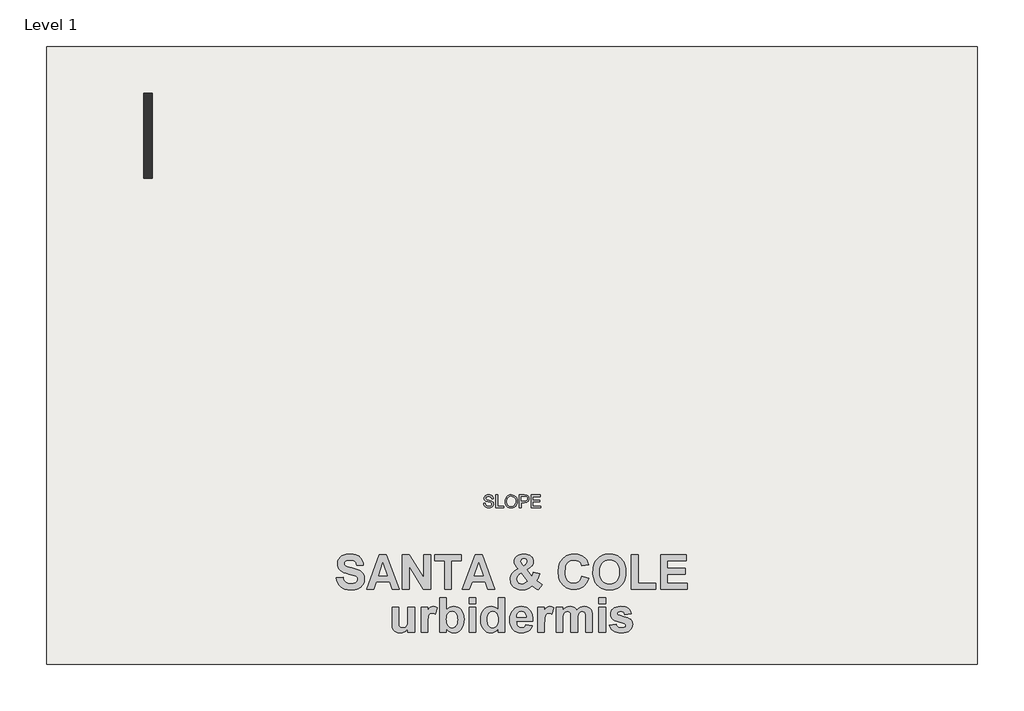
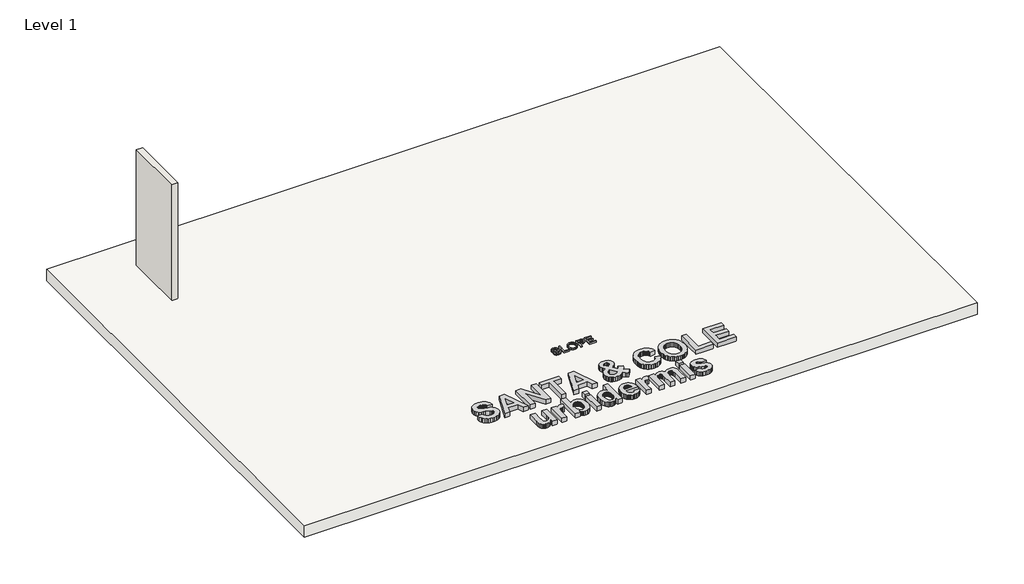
# One storey, incomplete: 2 proxies, 1 slab, 1 wall.
"""IFC4 building model written with IfcOpenShell, lengths in millimetres."""

from ifc_helpers import new_model, si_unit, frame, origin, origin_with_axes, place, context, project, spatial, polyline, outline, extrude, element, save

model = new_model("IFC4")

# Units and contexts
model_context = context("Model", 3, world=origin())
ifc_project = project(units=[si_unit("LENGTHUNIT", "METRE", prefix="MILLI")], contexts=[model_context])

# Site, building, storey
site = spatial("IfcSite", under=ifc_project)
building = spatial("IfcBuilding", under=site)
storey = spatial("IfcBuildingStorey", under=building, Name="Level 1", Elevation=0.0)

# Proxies
placement = place(None, origin())
element("IfcBuildingElementProxy", 1, Name="300mm Arial", ObjectType="300mm Arial", at=placement, inside=storey, context=model_context, shape_type="SweptSolid", body=[
    extrude(outline(polyline([(16648.3126287, -8880.6226105), (16685.983745, -8880.6226105), (16690.3063584, -8901.5275049), (16698.1238508, -8918.330515), (16710.3191389, -8931.6662373), (16727.7751396, -8942.1692683), (16749.1122953, -8948.9842823), (16772.9510486, -8951.2559536), (16793.9387164, -8949.5361052), (16812.3144221, -8944.3765603), (16827.2044459, -8936.20958), (16837.735068, -8925.4674257), (16843.9982589, -8913.1341818), (16846.0859893, -8900.1939326), (16844.5224908, -8887.5847773), (16839.8319953, -8876.6862732), (16830.3038517, -8867.3880557), (16814.2274085, -8859.5797604), (16759.376203, -8845.1955744), (16723.3697527, -8835.6766277), (16700.3311428, -8826.6175336), (16681.5783581, -8813.9439989), (16668.288621, -8798.5849256), (16660.3699611, -8780.8714075), (16657.7304077, -8761.1345385), (16660.9953604, -8739.0708158), (16670.7902186, -8718.4970152), (16686.8574647, -8701.0594087), (16708.9395815, -8688.404268), (16735.4454792, -8680.7063373), (16764.7840683, -8678.1403604), (16796.5690727, -8680.8258989), (16824.3809516, -8688.8825146), (16847.2264235, -8702.1446605), (16864.112207, -8720.4467898), (16874.799179, -8742.6484682), (16879.048216, -8767.6092616), (16841.3770997, -8767.6092616), (16834.4609182, -8745.1316717), (16820.039944, -8728.9080757), (16797.5071718, -8719.0856264), (16766.2555963, -8715.8114767), (16734.2682568, -8719.0488382), (16712.3240958, -8728.7609229), (16699.632167, -8743.0531384), (16695.401524, -8760.0308925), (16698.3997623, -8774.507049), (16707.3944771, -8786.1505141), (16728.6580564, -8796.5615746), (16768.9043467, -8807.1933643), (16810.4382239, -8817.291725), (16835.5645642, -8826.1024988), (16857.0396757, -8839.7693149), (16872.0216699, -8856.6367044), (16880.8232467, -8876.5207263), (16883.7571056, -8899.2374395), (16880.3817883, -8922.4599904), (16870.2558363, -8944.3029839), (16853.7931171, -8963.1017538), (16831.4074977, -8977.1916342), (16804.4877327, -8985.993211), (16774.4225766, -8988.9270699), (16737.5148154, -8985.7632847), (16707.1369597, -8976.2719292), (16682.9395215, -8960.4162153), (16664.5730128, -8938.1593545), (16652.7823949, -8911.0464515), (16648.3126287, -8880.6226105)])), origin_with_axes(), (0.0, 0.0, 1.0), 50.0),
    extrude(outline(polyline([(16940.26378, -8984.2181803), (16940.26378, -8682.8492499), (16977.9348963, -8682.8492499), (16977.9348963, -8946.547064), (17128.6193616, -8946.547064), (17128.6193616, -8984.2181803), (16940.26378, -8984.2181803)])), origin_with_axes(), (0.0, 0.0, 1.0), 50.0),
    extrude(outline(polyline([(17156.8726988, -8837.5068407), (17159.3834934, -8802.1579795), (17166.9158773, -8770.8650172), (17179.4698503, -8743.627954), (17197.0454127, -8720.4467898), (17218.589502, -8701.9377269), (17243.0490562, -8688.7169677), (17270.4240751, -8680.7845122), (17300.7145589, -8678.1403604), (17340.2434793, -8683.1067673), (17375.6889095, -8698.0059881), (17405.1194691, -8721.7895591), (17426.6037777, -8753.4090166), (17439.7371649, -8791.3376503), (17444.1149606, -8834.0487499), (17439.5072386, -8877.3300666), (17425.6840727, -8915.7921292), (17403.4088179, -8947.466769), (17373.4448294, -8970.3858173), (17338.3029018, -8984.2917567), (17300.4938297, -8988.9270699), (17260.357904, -8983.8043131), (17224.7101387, -8968.4360427), (17195.3531555, -8944.2110134), (17174.0895762, -8912.5179795), (17161.1769181, -8876.0516767), (17156.8726988, -8837.5068407)]), holes=[polyline([(17194.5438151, -8837.8747227), (17196.4269111, -8862.8493116), (17202.0761989, -8885.0188003), (17211.4916788, -8904.3831889), (17224.6733505, -8920.9424772), (17240.6969107, -8934.2046231), (17258.6380557, -8943.6775845), (17278.4967857, -8949.3613613), (17300.2731005, -8951.2559536), (17322.4218959, -8949.3429672), (17342.5151506, -8943.6040081), (17360.5528647, -8934.0390762), (17376.5350381, -8920.6481716), (17389.6201408, -8903.7393954), (17398.9666428, -8883.6208488), (17404.5745439, -8860.2925317), (17406.4438443, -8833.7544443), (17403.243271, -8800.4059415), (17393.6415509, -8771.5823871), (17377.8870044, -8748.0103483), (17356.227952, -8730.4163919), (17330.0991333, -8719.4627055), (17300.9352881, -8715.8114767), (17279.9154306, -8717.5704125), (17260.4130863, -8722.8472198), (17242.4282553, -8731.6418988), (17225.9609375, -8743.9544493), (17212.2159464, -8760.3780811), (17202.3980957, -8781.5060039), (17196.5073852, -8807.3382178), (17194.5438151, -8837.8747227)])]), origin_with_axes(), (0.0, 0.0, 1.0), 50.0),
    extrude(outline(polyline([(17495.9127455, -8984.2181803), (17495.9127455, -8682.8492499), (17607.6017193, -8682.8492499), (17652.6304755, -8685.7187295), (17672.7076354, -8691.0806095), (17689.234734, -8699.8086099), (17702.5428652, -8712.2982036), (17712.9631227, -8728.9448639), (17719.6953632, -8748.5805654), (17721.9394434, -8770.0372828), (17720.4242294, -8788.5371486), (17715.8785875, -8805.5562894), (17708.3025177, -8821.0947052), (17697.6960199, -8835.1523959), (17683.1347907, -8846.8050581), (17663.6945265, -8855.1283882), (17639.3752274, -8860.1223863), (17610.1768932, -8861.7870523), (17533.5838619, -8861.7870523), (17533.5838619, -8984.2181803), (17495.9127455, -8984.2181803)]), holes=[polyline([(17533.5838619, -8824.115936), (17612.3841852, -8824.115936), (17645.7878704, -8820.6578453), (17667.8607901, -8810.283573), (17680.1664428, -8793.6369127), (17684.2683271, -8771.3616579), (17681.849503, -8754.4390862), (17674.5930306, -8740.1652647), (17663.4002209, -8729.4231105), (17649.1723847, -8723.0955402), (17611.5012684, -8720.5203662), (17533.5838619, -8720.5203662), (17533.5838619, -8824.115936)])]), origin_with_axes(), (0.0, 0.0, 1.0), 50.0),
    extrude(outline(polyline([(17773.7372283, -8984.2181803), (17773.7372283, -8682.8492499), (17990.3461471, -8682.8492499), (17990.3461471, -8720.5203662), (17811.4083446, -8720.5203662), (17811.4083446, -8809.9892674), (17980.928368, -8809.9892674), (17980.928368, -8847.6603837), (17811.4083446, -8847.6603837), (17811.4083446, -8946.547064), (17995.0550366, -8946.547064), (17995.0550366, -8984.2181803), (17773.7372283, -8984.2181803)])), origin_with_axes(), (0.0, 0.0, 1.0), 50.0),
])
element("IfcBuildingElementProxy", 2, Name="800mm Arial", ObjectType="800mm Arial", at=placement, inside=storey, context=model_context, shape_type="SweptSolid", body=[
    extrude(outline(polyline([(13169.8954163, -10638.9709188), (13325.9951045, -10625.9626115), (13335.4464528, -10663.539343), (13348.7596424, -10695.7806361), (13365.9346732, -10722.6864905), (13386.9715452, -10744.2569064), (13411.9337756, -10760.7967659), (13440.8848815, -10772.6109513), (13473.8248629, -10779.6994626), (13510.7537198, -10782.0622996), (13549.5626836, -10779.9725862), (13583.2648706, -10773.7034459), (13611.8602806, -10763.2548787), (13635.3489137, -10748.6268847), (13653.6672527, -10731.2041371), (13666.7517806, -10712.3713093), (13674.6024974, -10692.1284013), (13677.2194029, -10670.4754132), (13672.8748315, -10643.9252546), (13659.8411173, -10621.5926332), (13635.9332712, -10602.7153434), (13598.966304, -10586.5311798), (13463.5986057, -10551.7746086), (13400.7674649, -10534.815536), (13348.0482506, -10515.8493223), (13305.4409626, -10494.8759674), (13272.9456011, -10471.8954713), (13239.2434142, -10436.3131774), (13215.1704235, -10397.0468903), (13200.7266291, -10354.0966099), (13195.912031, -10307.4623362), (13198.122427, -10276.770861), (13204.7536149, -10247.0956599), (13215.8055948, -10218.4367328), (13231.2783666, -10190.7940797), (13250.9178619, -10165.2728985), (13274.4700121, -10142.9783874), (13301.9348173, -10123.9105463), (13333.3122774, -10108.0693751), (13368.3610274, -10095.6200185), (13406.8397021, -10086.7276209), (13448.7483017, -10081.3921823), (13494.086826, -10079.6137028), (13566.261336, -10084.0471981), (13628.9209805, -10097.3476843), (13682.0657596, -10119.5151612), (13705.0700746, -10133.9240211), (13725.6956733, -10150.5496288), (13759.9504592, -10188.9774899), (13784.969855, -10233.325147), (13800.7538608, -10283.5926003), (13807.3024764, -10339.7798498), (13651.2027882, -10339.7798498), (13644.1460356, -10310.7715784), (13633.9515369, -10286.1459888), (13620.6192922, -10265.9030808), (13604.1493015, -10250.0428545), (13583.8555798, -10238.0825798), (13559.0521422, -10229.5395263), (13529.7389887, -10224.4136943), (13495.9161193, -10222.7050836), (13460.6514111, -10224.5216734), (13429.4517989, -10229.9714428), (13402.3172828, -10239.0543918), (13379.2478627, -10251.7705204), (13367.3320499, -10261.9078536), (13358.8207551, -10273.6204116), (13353.7139782, -10286.9081943), (13352.0117192, -10301.7712017), (13353.5615371, -10315.5798249), (13358.2109907, -10328.3467671), (13376.8088051, -10350.7556091), (13398.1823179, -10363.7702682), (13430.798362, -10377.0008854), (13529.7580438, -10404.1099947), (13635.3743205, -10432.3115985), (13676.311108, -10446.907834), (13709.3336617, -10461.8343586), (13736.8238737, -10478.3170527), (13761.1636363, -10497.5817969), (13782.3529494, -10519.6285913), (13800.3918132, -10544.4574357), (13814.7974973, -10572.2144197), (13825.0872716, -10603.0456325), (13831.2611363, -10636.9510742), (13833.3190911, -10673.9307448), (13830.8863852, -10708.3316201), (13823.5882675, -10741.614594), (13811.4247379, -10773.7796664), (13794.3957965, -10804.8268375), (13772.9143046, -10833.3587304), (13747.3931234, -10857.9779683), (13717.8322531, -10878.6845513), (13684.2316936, -10895.4784793), (13646.4199487, -10908.4613798), (13604.2255221, -10917.7348802), (13557.6484138, -10923.2989804), (13506.6886238, -10925.1536805), (13433.7455566, -10920.5867991), (13369.7965144, -10906.8861551), (13314.8414972, -10884.0517484), (13268.880505, -10852.083579), (13231.5959522, -10811.3627497), (13202.6702532, -10762.2703633), (13182.1034079, -10704.8064196), (13169.8954163, -10638.9709188)])), origin_with_axes(), (0.0, 0.0, 1.0), 150.0),
    extrude(outline(polyline([(14652.8424541, -10912.1453731), (14488.8158287, -10912.1453731), (14424.5873111, -10730.0290702), (14115.0302472, -10730.0290702), (14051.6147488, -10912.1453731), (13885.3523205, -10912.1453731), (14184.5433896, -10092.6220101), (14350.8058179, -10092.6220101), (14652.8424541, -10912.1453731)]), holes=[polyline([(14374.5866298, -10586.9376894), (14269.0973873, -10287.7466204), (14165.0309285, -10586.9376894), (14374.5866298, -10586.9376894)])]), origin_with_axes(), (0.0, 0.0, 1.0), 150.0),
    extrude(outline(polyline([(14730.8922982, -10912.1453731), (14730.8922982, -10092.6220101), (14894.5124141, -10092.6220101), (15238.2162849, -10644.2555437), (15238.2162849, -10092.6220101), (15394.3159731, -10092.6220101), (15394.3159731, -10912.1453731), (15225.6144871, -10912.1453731), (14886.9919864, -10368.6420317), (14886.9919864, -10912.1453731), (14730.8922982, -10912.1453731)])), origin_with_axes(), (0.0, 0.0, 1.0), 150.0),
    extrude(outline(polyline([(15732.5319642, -10912.1453731), (15732.5319642, -10235.713391), (15498.3824319, -10235.713391), (15498.3824319, -10092.6220101), (16122.7811846, -10092.6220101), (16122.7811846, -10235.713391), (15888.6316523, -10235.713391), (15888.6316523, -10912.1453731), (15732.5319642, -10912.1453731)])), origin_with_axes(), (0.0, 0.0, 1.0), 150.0),
    extrude(outline(polyline([(16916.287933, -10912.1453731), (16752.2613075, -10912.1453731), (16688.0327899, -10730.0290702), (16378.475726, -10730.0290702), (16315.0602276, -10912.1453731), (16148.7977993, -10912.1453731), (16447.9888684, -10092.6220101), (16614.2512967, -10092.6220101), (16916.287933, -10912.1453731)]), holes=[polyline([(16638.0321086, -10586.9376894), (16532.5428661, -10287.7466204), (16428.4764073, -10586.9376894), (16638.0321086, -10586.9376894)])]), origin_with_axes(), (0.0, 0.0, 1.0), 150.0),
    extrude(outline(polyline([(18035.002365, -10798.7291934), (17936.2205311, -10925.1536805), (17899.5076324, -10906.0350256), (17863.5569392, -10883.6388871), (17793.9421694, -10829.014159), (17744.0939292, -10871.9009223), (17718.064611, -10888.4661887), (17691.2984943, -10901.7793782), (17662.8809322, -10912.0056355), (17631.8972783, -10919.3101049), (17562.2316948, -10925.1536805), (17492.4644839, -10919.6912077), (17461.0489135, -10912.8631167), (17431.9453665, -10903.3037892), (17405.1538428, -10891.0132254), (17380.6743426, -10875.9914252), (17358.5068657, -10858.2383885), (17338.6514122, -10837.7541155), (17313.2191551, -10802.6418484), (17295.0532571, -10764.9888962), (17284.1537183, -10724.7952591), (17280.5205387, -10682.0609369), (17283.3597543, -10643.0296631), (17291.8774008, -10606.018234), (17306.0734784, -10571.0266494), (17325.9479871, -10538.0549094), (17351.4755199, -10507.1411243), (17382.6306701, -10478.3234044), (17419.4134376, -10451.6017496), (17461.8238224, -10426.97616), (17422.4686113, -10379.7702321), (17394.2416006, -10334.9017345), (17377.2444178, -10292.3706671), (17371.5786902, -10252.17703), (17375.3007938, -10217.4712725), (17386.4671045, -10185.5094548), (17405.0776223, -10156.291577), (17431.1323473, -10129.817639), (17464.0723287, -10107.8534169), (17503.3386158, -10092.1646868), (17548.9312086, -10082.7514488), (17600.8501072, -10079.6137028), (17651.0985054, -10082.8721313), (17695.5414383, -10092.647417), (17734.1789058, -10108.9395597), (17767.0109081, -10131.7485596), (17793.1990191, -10159.2578267), (17811.9048126, -10189.6507714), (17823.1282887, -10222.9273936), (17826.8694474, -10259.0876932), (17824.9448785, -10282.760526), (17819.1711718, -10305.8108909), (17809.5483272, -10328.238788), (17796.0763449, -10350.0442173), (17776.7480835, -10372.2434527), (17749.556402, -10395.8527684), (17671.5827784, -10447.3016402), (17787.0315062, -10599.3362323), (17808.3732604, -10558.5328308), (17826.4629378, -10506.8552973), (17974.0259243, -10539.3760657), (17953.3447482, -10603.7570243), (17935.6107667, -10648.1173849), (17918.7406181, -10679.672693), (17900.6509407, -10705.638494), (17971.2819845, -10759.7042714), (18035.002365, -10798.7291934)]), holes=[polyline([(17537.0280993, -10527.7905419), (17492.9726209, -10557.3387088), (17475.7086661, -10574.151692), (17461.6205676, -10592.3239417), (17442.8703121, -10630.459624), (17436.6202269, -10669.4591392), (17438.519389, -10693.2081925), (17444.2168752, -10714.6579258), (17453.7126855, -10733.8083392), (17467.0068199, -10750.6594327), (17483.489514, -10764.398187), (17502.5510034, -10774.2115829), (17524.1912882, -10780.0996205), (17548.4103682, -10782.0622996), (17581.3376462, -10778.4799338), (17613.0453954, -10767.7328361), (17645.5661637, -10748.7539189), (17680.9324993, -10720.4760945), (17537.0280993, -10527.7905419)]), polyline([(17592.7199151, -10358.2760368), (17629.7122891, -10326.3650328), (17647.6749323, -10308.5040171), (17660.5053917, -10290.693815), (17668.2036673, -10272.9344266), (17670.7697592, -10255.225852), (17665.8154234, -10227.73564), (17650.952416, -10204.6154062), (17627.705148, -10188.9139727), (17597.5980304, -10183.6801616), (17568.4055594, -10188.3042083), (17546.2761928, -10202.1763486), (17532.327832, -10222.0953192), (17527.6783784, -10244.8598571), (17529.6347058, -10259.9388227), (17535.5036883, -10276.5167925), (17558.9796179, -10314.1697447), (17592.7199151, -10358.2760368)])]), origin_with_axes(), (0.0, 0.0, 1.0), 150.0),
    extrude(outline(polyline([(18971.6004942, -10599.9459968), (19127.7001824, -10651.9792261), (19106.1424699, -10713.6988172), (19078.4617065, -10766.9452237), (19044.6578922, -10811.7184456), (19004.7310269, -10848.018483), (18958.8462553, -10876.0739974), (18907.1687218, -10896.1136506), (18849.6984265, -10908.1374425), (18786.4353692, -10912.1453731), (18746.441811, -10910.4335866), (18708.2711943, -10905.298227), (18671.9235191, -10896.7392943), (18637.3987854, -10884.7567885), (18604.6969932, -10869.3507097), (18573.8181426, -10850.5210578), (18544.7622334, -10828.2678328), (18517.5292657, -10802.5910347), (18492.8528624, -10773.944811), (18471.4666462, -10742.7833091), (18453.370617, -10709.106529), (18438.564775, -10672.9144708), (18427.0491201, -10634.2071344), (18418.8236524, -10592.9845198), (18413.8883717, -10549.246627), (18412.2432781, -10502.993456), (18413.902663, -10454.1424346), (18418.8808178, -10408.0988702), (18427.1777423, -10364.8627627), (18438.7934367, -10324.4341122), (18453.7279009, -10286.8129186), (18471.9811349, -10251.999182), (18493.5531387, -10219.9929023), (18518.4439124, -10190.7940797), (18546.0405156, -10164.7361788), (18575.7300081, -10142.1526648), (18607.5123898, -10123.0435375), (18641.3876609, -10107.408797), (18677.3558213, -10095.2484433), (18715.416871, -10086.5624763), (18755.5708099, -10081.3508962), (18797.8176382, -10079.6137028), (18869.8714656, -10085.3429475), (18903.23066, -10092.5045034), (18934.8113749, -10102.5306817), (18964.6136103, -10115.4214824), (18992.6373662, -10131.1769054), (19018.8826426, -10149.7969508), (19043.3494394, -10171.2816186), (19069.7344534, -10201.2744054), (19092.5879153, -10237.1869883), (19111.9098249, -10279.0193673), (19127.7001824, -10326.7715424), (18971.6004942, -10352.7881571), (18961.7616914, -10324.1990988), (18947.692648, -10298.7986002), (18929.3933641, -10276.5866614), (18906.8638396, -10257.5632822), (18880.8916869, -10242.3128203), (18852.2645183, -10231.4196333), (18820.9823339, -10224.883721), (18787.0451336, -10222.7050836), (18740.6585767, -10226.6622006), (18698.8579563, -10238.5335513), (18661.6432723, -10258.319136), (18629.0145248, -10286.0189545), (18602.470718, -10322.5730604), (18583.510856, -10368.921507), (18572.1349387, -10425.0642945), (18568.3429663, -10491.0014227), (18572.0206079, -10560.7940405), (18583.0535327, -10619.76334), (18601.4417406, -10667.9093213), (18627.1852316, -10705.2319844), (18658.8231119, -10733.1541128), (18694.8944876, -10753.0984903), (18735.3993587, -10765.0651168), (18780.3377252, -10769.0539923), (18813.7921953, -10766.5069556), (18844.8457181, -10758.8658453), (18873.4982935, -10746.1306616), (18899.7499215, -10728.3014044), (18923.0289481, -10704.996971), (18942.7637191, -10675.8362586), (18958.9542344, -10640.8192672), (18971.6004942, -10599.9459968)])), origin_with_axes(), (0.0, 0.0, 1.0), 150.0),
    extrude(outline(polyline([(19231.7666412, -10507.4650617), (19234.0659611, -10447.4794881), (19240.963921, -10392.524471), (19252.4605207, -10342.6000101), (19268.5557604, -10297.7061057), (19301.0003082, -10238.4827376), (19343.455155, -10185.6110822), (19393.1763611, -10142.3432161), (19419.7328713, -10125.530233), (19447.4199864, -10111.9312163), (19486.4703153, -10097.7923042), (19528.4170252, -10087.6930812), (19573.2601159, -10081.6335474), (19620.9995876, -10079.6137028), (19664.3500259, -10081.3651875), (19705.4773648, -10086.6196417), (19744.3816044, -10095.3770655), (19781.0627445, -10107.6374586), (19815.5207852, -10123.4008213), (19847.7557265, -10142.6671535), (19877.7675684, -10165.4364551), (19905.5563109, -10191.7087263), (19930.5661792, -10221.0996883), (19952.2413983, -10253.2250625), (19970.5819684, -10288.0848491), (19985.5878893, -10325.6790479), (19997.2591612, -10366.0076589), (20005.5957839, -10409.0706822), (20010.5977576, -10454.8681178), (20012.2650821, -10503.3999656), (20010.610461, -10551.5935848), (20005.6465976, -10597.0877261), (19997.373492, -10639.8823896), (19985.7911441, -10679.9775752), (19970.899554, -10717.3732829), (19952.6987216, -10752.0695129), (19931.188647, -10784.066265), (19906.3693301, -10813.3635392), (19878.7774907, -10839.5643536), (19848.9498484, -10862.271726), (19816.8864034, -10881.4856565), (19782.5871555, -10897.2061452), (19746.0521048, -10909.4331919), (19707.2812512, -10918.1667967), (19666.2745948, -10923.4069595), (19623.0321357, -10925.1536805), (19579.313298, -10923.4148992), (19537.8937803, -10918.1985552), (19498.7735826, -10909.5046486), (19461.9527048, -10897.3331794), (19427.431147, -10881.6841476), (19395.2089091, -10862.5575531), (19365.2859912, -10839.953396), (19337.6623932, -10813.8716762), (19312.8430763, -10784.7411344), (19291.3330017, -10752.9905112), (19273.1321693, -10718.6198065), (19258.2405792, -10681.6290204), (19246.6582313, -10642.0181529), (19238.3851257, -10599.7872039), (19233.4212623, -10554.9361735), (19231.7666412, -10507.4650617)]), holes=[polyline([(19387.8663293, -10501.7739272), (19392.0139977, -10566.5995057), (19404.4570026, -10623.0662305), (19425.1953441, -10671.1741015), (19454.2290223, -10710.9231188), (19489.6525233, -10742.0465104), (19529.5603334, -10764.2775044), (19573.9524526, -10777.6161008), (19622.8288808, -10782.0622996), (19671.6544954, -10777.6478594), (19715.8941735, -10764.4045387), (19755.5479151, -10742.3323375), (19790.6157202, -10711.4312558), (19819.2937024, -10671.7012937), (19839.7779755, -10623.1424511), (19852.0685393, -10565.754728), (19856.1653939, -10499.5381244), (19852.1765184, -10434.2425191), (19840.2098919, -10377.7884978), (19820.2655145, -10330.1760604), (19792.343386, -10291.4052068), (19757.8154764, -10261.3489029), (19718.0537557, -10239.8801144), (19673.0582239, -10226.9988413), (19622.8288808, -10222.7050836), (19572.5487241, -10227.049655), (19527.4007512, -10240.0833692), (19487.3849619, -10261.8062262), (19452.5013565, -10292.218226), (19424.2235321, -10331.3828857), (19404.0250861, -10379.3637225), (19391.9060185, -10436.1607363), (19387.8663293, -10501.7739272)])]), origin_with_axes(), (0.0, 0.0, 1.0), 150.0),
    extrude(outline(polyline([(20142.3481556, -10912.1453731), (20142.3481556, -10092.6220101), (20298.4478438, -10092.6220101), (20298.4478438, -10769.0539923), (20714.713679, -10769.0539923), (20714.713679, -10912.1453731), (20142.3481556, -10912.1453731)])), origin_with_axes(), (0.0, 0.0, 1.0), 150.0),
    extrude(outline(polyline([(20831.7884451, -10912.1453731), (20831.7884451, -10092.6220101), (21443.1788906, -10092.6220101), (21443.1788906, -10235.713391), (20987.8881333, -10235.713391), (20987.8881333, -10417.8296939), (21417.1622759, -10417.8296939), (21417.1622759, -10560.9210747), (20987.8881333, -10560.9210747), (20987.8881333, -10769.0539923), (21456.1871979, -10769.0539923), (21456.1871979, -10912.1453731), (20831.7884451, -10912.1453731)])), origin_with_axes(), (0.0, 0.0, 1.0), 150.0),
    extrude(outline(polyline([(14860.9753717, -11928.9504956), (14860.9753717, -11841.144421), (14844.2132023, -11863.3690633), (14825.0246786, -11883.0911309), (14803.4098007, -11900.3106236), (14779.3685686, -11915.0275417), (14753.7521118, -11926.8099685), (14727.4115598, -11935.2259877), (14700.3469125, -11940.2755991), (14672.55817, -11941.958803), (14644.7249655, -11940.3073577), (14618.3399515, -11935.3530219), (14593.4031279, -11927.0957956), (14569.9144948, -11915.5356787), (14548.7251817, -11900.9839052), (14530.6863179, -11883.751709), (14515.7979037, -11863.83909), (14504.0599388, -11841.2460484), (14495.1675412, -11815.0198272), (14488.8158287, -11784.2076695), (14483.7344586, -11708.8255447), (14483.7344586, -11330.5683576), (14639.8341468, -11330.5683576), (14639.8341468, -11607.1981435), (14641.9429154, -11709.6131571), (14648.2692211, -11762.7896947), (14660.2104407, -11788.3997998), (14679.1639511, -11808.1155156), (14704.6470219, -11820.6919065), (14736.1769231, -11824.8840368), (14773.5503999, -11819.2945298), (14806.8079669, -11802.5260086), (14833.0786501, -11777.4494473), (14849.4914754, -11746.9358201), (14854.5156801, -11724.3173717), (14858.1043977, -11689.6941864), (14860.9753717, -11584.4336057), (14860.9753717, -11330.5683576), (15017.0750599, -11330.5683576), (15017.0750599, -11928.9504956), (14860.9753717, -11928.9504956)])), origin_with_axes(), (0.0, 0.0, 1.0), 150.0),
    extrude(outline(polyline([(15329.2744363, -11928.9504956), (15173.1747481, -11928.9504956), (15173.1747481, -11330.5683576), (15329.2744363, -11330.5683576), (15329.2744363, -11413.9028265), (15362.252528, -11364.8930123), (15391.6736606, -11336.1578646), (15421.2472344, -11322.2095038), (15454.6826494, -11317.5600502), (15479.263777, -11319.6180051), (15503.4129882, -11325.7918697), (15527.130283, -11336.0816441), (15550.4156613, -11350.4873282), (15504.8865855, -11499.0665887), (15467.2844471, -11480.011451), (15432.5278759, -11473.6597384), (15402.5223857, -11478.1059372), (15377.5474519, -11491.4445336), (15357.4760401, -11516.3686537), (15342.1811163, -11555.5714237), (15336.5344438, -11585.0941838), (15332.5011063, -11627.320369), (15329.2744363, -11749.8830148), (15329.2744363, -11928.9504956)])), origin_with_axes(), (0.0, 0.0, 1.0), 150.0),
    extrude(outline(polyline([(15615.457198, -11928.9504956), (15615.457198, -11109.4271326), (15771.5568862, -11109.4271326), (15771.5568862, -11399.4717355), (15808.9811767, -11363.6353732), (15849.7083577, -11338.0379715), (15893.7384293, -11322.6795305), (15941.0713913, -11317.5600502), (15992.215381, -11322.5016826), (16038.7353239, -11337.3265797), (16080.63122, -11362.0347416), (16117.9030694, -11396.6261683), (16148.4929171, -11440.4656885), (16170.3428084, -11492.9181309), (16183.4527431, -11553.9834956), (16187.8227214, -11623.6617825), (16183.47815, -11695.7029065), (16170.4444358, -11758.9786672), (16148.7215788, -11813.4890645), (16118.309579, -11859.2340984), (16081.6983077, -11895.4261567), (16041.3776363, -11921.2776268), (15997.3475647, -11936.7885089), (15949.608093, -11941.958803), (15901.1572295, -11935.7087178), (15853.3669441, -11916.9584623), (15830.4563169, -11902.9465844), (15809.1844315, -11885.9112912), (15789.5512879, -11865.8525829), (15771.5568862, -11842.7704594), (15771.5568862, -11928.9504956), (15615.457198, -11928.9504956)]), holes=[polyline([(15771.5568862, -11618.3771577), (15773.3607726, -11663.118621), (15778.7724317, -11701.6099992), (15787.7918635, -11733.8512922), (15800.4190681, -11759.8425001), (15822.2181457, -11788.2981724), (15847.3709275, -11808.6236526), (15875.8774135, -11820.8189408), (15907.7376038, -11824.8840368), (15932.5029311, -11822.0003593), (15955.3754481, -11813.3493268), (15976.3551547, -11798.9309393), (15995.442051, -11778.7451967), (16011.3149807, -11752.3728861), (16022.6527876, -11719.3947944), (16029.4554718, -11679.8109217), (16031.7230332, -11633.6212678), (16029.4427684, -11584.4653642), (16022.6019739, -11542.6901506), (16011.2006499, -11508.2956271), (15995.2387962, -11481.2817935), (15975.70728, -11460.873741), (15953.5969685, -11446.2965606), (15928.9078618, -11437.5502524), (15901.6399597, -11434.6348163), (15874.8674912, -11437.4803836), (15850.4451564, -11446.0170853), (15828.3729552, -11460.2449214), (15808.6508876, -11480.1638921), (15792.422262, -11505.8756246), (15780.8303866, -11537.4817463), (15773.8752613, -11574.9822574), (15771.5568862, -11618.3771577)])]), origin_with_axes(), (0.0, 0.0, 1.0), 150.0),
    extrude(outline(polyline([(16304.8974875, -11252.5185135), (16304.8974875, -11109.4271326), (16460.9971757, -11109.4271326), (16460.9971757, -11252.5185135), (16304.8974875, -11252.5185135)])), origin_with_axes(), (0.0, 0.0, 1.0), 150.0),
    extrude(outline(polyline([(16304.8974875, -11928.9504956), (16304.8974875, -11330.5683576), (16460.9971757, -11330.5683576), (16460.9971757, -11928.9504956), (16304.8974875, -11928.9504956)])), origin_with_axes(), (0.0, 0.0, 1.0), 150.0),
    extrude(outline(polyline([(17150.4374652, -11928.9504956), (16994.337777, -11928.9504956), (16994.337777, -11842.7704594), (16976.0766034, -11866.2654442), (16956.2529085, -11886.5464625), (16934.8666922, -11903.6135142), (16911.9179547, -11917.4665993), (16864.2801104, -11935.8357521), (16816.2865702, -11941.958803), (16768.9599598, -11936.7758055), (16725.1521982, -11921.2268131), (16684.8632854, -11895.3118258), (16648.0932213, -11859.0308436), (16617.4589115, -11813.4636576), (16595.5772617, -11759.690059), (16582.4482718, -11697.7100477), (16578.0719419, -11627.5236238), (16582.4419201, -11556.1557813), (16595.5518549, -11493.8835912), (16617.4017461, -11440.7070536), (16647.9915939, -11396.6261683), (16685.2634432, -11362.0347416), (16727.1593394, -11337.3265797), (16773.6792823, -11322.5016826), (16824.8232719, -11317.5600502), (16872.156234, -11322.6795305), (16916.1863056, -11338.0379715), (16956.9134866, -11363.6353732), (16994.337777, -11399.4717355), (16994.337777, -11109.4271326), (17150.4374652, -11109.4271326), (17150.4374652, -11928.9504956)]), holes=[polyline([(16734.1716301, -11618.3771577), (16735.7976685, -11664.2619293), (16740.6757837, -11703.337665), (16748.8059758, -11735.6043649), (16760.1882448, -11761.0620289), (16780.8567175, -11788.9841574), (16805.2599972, -11808.9285349), (16833.3980839, -11820.8951613), (16865.2709776, -11824.8840368), (16891.1859649, -11821.8923802), (16915.0684041, -11812.9174103), (16936.9182954, -11797.9591272), (16956.7356386, -11777.0175309), (16973.1865742, -11750.1307316), (16984.9372424, -11717.3368395), (16991.9876434, -11678.6358548), (16994.337777, -11634.0277774), (16992.0575122, -11584.6940259), (16985.2167178, -11542.791778), (16973.8153937, -11508.3210339), (16957.85354, -11481.2817935), (16938.3220239, -11460.873741), (16916.2117124, -11446.2965606), (16891.5226056, -11437.5502524), (16864.2547036, -11434.6348163), (16837.7299518, -11437.5184939), (16813.441003, -11446.1695264), (16791.3878569, -11460.5879139), (16771.5705137, -11480.7736565), (16755.2085021, -11506.6759404), (16743.521351, -11538.2439518), (16736.5090603, -11575.4776909), (16734.1716301, -11618.3771577)])]), origin_with_axes(), (0.0, 0.0, 1.0), 150.0),
    extrude(outline(polyline([(17644.7531445, -11746.8341927), (17800.8528327, -11772.8508074), (17783.9826841, -11811.7423435), (17762.8441847, -11845.6922472), (17737.4373344, -11874.7005185), (17707.7621332, -11898.7671575), (17673.9583189, -11917.6635024), (17636.1656291, -11931.1608916), (17594.3840638, -11939.2593251), (17548.613623, -11941.958803), (17512.0372862, -11940.367699), (17477.9190621, -11935.594387), (17446.2589508, -11927.638867), (17417.0569522, -11916.501139), (17390.3130664, -11902.181203), (17366.0272934, -11884.679059), (17344.1996331, -11863.994707), (17324.8300856, -11840.128147), (17299.7535244, -11796.6951364), (17281.841695, -11747.9012804), (17271.0945973, -11693.7465791), (17267.5122314, -11634.2310322), (17272.2633124, -11564.0573117), (17286.5165554, -11501.9121559), (17310.2719604, -11447.7955648), (17343.5295275, -11401.7075384), (17384.0534537, -11364.8930123), (17429.6079363, -11338.5969222), (17480.1929752, -11322.8192682), (17535.8085705, -11317.5600502), (17597.6107338, -11322.9590059), (17652.5276407, -11339.155873), (17677.404123, -11351.3035232), (17700.5592912, -11366.1506514), (17741.7056852, -11403.9433412), (17759.3285118, -11426.9778268), (17774.4932255, -11452.8896383), (17787.1998265, -11481.6787755), (17797.4483148, -11513.3452386), (17810.570953, -11585.310142), (17813.8611401, -11668.7843486), (17423.6119196, -11668.7843486), (17426.5210039, -11703.7187678), (17433.6222186, -11734.5372772), (17444.9155636, -11761.2398769), (17460.4010388, -11783.8265668), (17479.0623703, -11801.7892099), (17499.8832842, -11814.6196693), (17522.8637802, -11822.317945), (17548.0038586, -11824.8840368), (17580.7786955, -11820.2599901), (17607.9640253, -11806.3878498), (17629.3565932, -11782.251342), (17644.7531445, -11746.8341927)]), holes=[polyline([(17657.7614519, -11577.7261972), (17654.9794018, -11544.7671607), (17648.2592899, -11516.0129578), (17637.6011162, -11491.4635887), (17623.0048807, -11471.1190534), (17605.5503745, -11455.1571997), (17586.3173889, -11443.7558756), (17565.3059237, -11436.9150812), (17542.5159789, -11434.6348163), (17518.3032506, -11437.0357637), (17496.2755114, -11444.2386058), (17476.4327613, -11456.2433425), (17458.7750004, -11473.049974), (17444.3947231, -11494.0741426), (17434.1811693, -11518.528236), (17428.1343389, -11546.4122542), (17426.254232, -11577.7261972), (17657.7614519, -11577.7261972)])]), origin_with_axes(), (0.0, 0.0, 1.0), 150.0),
    extrude(outline(polyline([(18087.0355944, -11928.9504956), (17930.9359062, -11928.9504956), (17930.9359062, -11330.5683576), (18087.0355944, -11330.5683576), (18087.0355944, -11413.9028265), (18120.0136861, -11364.8930123), (18149.4348187, -11336.1578646), (18179.0083925, -11322.2095038), (18212.4438074, -11317.5600502), (18237.0249351, -11319.6180051), (18261.1741463, -11325.7918697), (18284.8914411, -11336.0816441), (18308.1768193, -11350.4873282), (18262.6477436, -11499.0665887), (18225.0456052, -11480.011451), (18190.289034, -11473.6597384), (18160.2835438, -11478.1059372), (18135.30861, -11491.4445336), (18115.2371982, -11516.3686537), (18099.9422744, -11555.5714237), (18094.2956019, -11585.0941838), (18090.2622644, -11627.320369), (18087.0355944, -11749.8830148), (18087.0355944, -11928.9504956)])), origin_with_axes(), (0.0, 0.0, 1.0), 150.0),
    extrude(outline(polyline([(18360.2100487, -11330.5683576), (18516.3097369, -11330.5683576), (18516.3097369, -11410.6507497), (18554.737598, -11369.9235687), (18596.6461976, -11340.8327251), (18642.0355356, -11323.3782189), (18690.9056121, -11317.5600502), (18741.1857689, -11323.2765915), (18763.6390728, -11330.4222682), (18784.3011938, -11340.4262155), (18803.1848353, -11353.3265437), (18820.3027007, -11369.1613631), (18849.2411032, -11409.6344757), (18889.2060787, -11369.1613631), (18932.2706899, -11340.4262155), (18978.3841232, -11323.2765915), (19027.4955648, -11317.5600502), (19058.3775913, -11319.2305506), (19086.7951534, -11324.2420518), (19112.748251, -11332.5945539), (19136.2368841, -11344.2880567), (19157.0959081, -11359.220933), (19175.1601787, -11377.2915552), (19190.4296957, -11398.4999235), (19202.9044592, -11422.8460378), (19209.8405294, -11444.9118873), (19214.7948652, -11472.8975329), (19218.7583338, -11546.6282124), (19218.7583338, -11928.9504956), (19062.6586456, -11928.9504956), (19062.6586456, -11584.4336057), (19058.695177, -11510.7029261), (19053.7408412, -11485.7661026), (19046.804771, -11468.7816231), (19034.7873308, -11453.8423952), (19019.8735097, -11443.171518), (19002.0633077, -11436.7689918), (18981.3567247, -11434.6348163), (18950.1825194, -11439.7415933), (18920.888421, -11455.061924), (18896.4978447, -11480.2401126), (18880.0342057, -11514.9204633), (18870.659078, -11565.7849776), (18867.5340354, -11639.5156571), (18867.5340354, -11928.9504956), (18711.4343472, -11928.9504956), (18711.4343472, -11598.6614418), (18709.4017992, -11526.2773254), (18703.3041551, -11485.1436347), (18692.963567, -11462.8872339), (18678.202187, -11447.1349867), (18658.1561821, -11437.7598589), (18631.9617195, -11434.6348163), (18598.5771182, -11439.5891522), (18568.7494759, -11454.4521596), (18544.6637819, -11478.6902948), (18528.5050251, -11511.7700138), (18519.358559, -11561.5928473), (18516.3097369, -11636.0603255), (18516.3097369, -11928.9504956), (18360.2100487, -11928.9504956), (18360.2100487, -11330.5683576)])), origin_with_axes(), (0.0, 0.0, 1.0), 150.0),
    extrude(outline(polyline([(19374.858022, -11252.5185135), (19374.858022, -11109.4271326), (19530.9577102, -11109.4271326), (19530.9577102, -11252.5185135), (19374.858022, -11252.5185135)])), origin_with_axes(), (0.0, 0.0, 1.0), 150.0),
    extrude(outline(polyline([(19374.858022, -11928.9504956), (19374.858022, -11330.5683576), (19530.9577102, -11330.5683576), (19530.9577102, -11928.9504956), (19374.858022, -11928.9504956)])), origin_with_axes(), (0.0, 0.0, 1.0), 150.0),
    extrude(outline(polyline([(19622.0158616, -11759.8425001), (19778.1155498, -11733.8258854), (19784.2703593, -11754.8373506), (19792.9785573, -11773.1556896), (19804.2401436, -11788.7809026), (19818.0551185, -11801.7129894), (19834.63944, -11811.8503226), (19854.2090665, -11819.091275), (19876.7639978, -11823.4358464), (19902.3042341, -11824.8840368), (19954.4899046, -11819.3453435), (19975.0567499, -11812.4219768), (19991.9396019, -11802.7292634), (20007.1837121, -11784.639586), (20012.2650821, -11761.2652837), (20009.571956, -11745.1065269), (20001.4925776, -11731.9965922), (19983.0472043, -11721.2749013), (19950.4756222, -11711.4678571), (19866.6457197, -11691.0661563), (19799.7113726, -11671.5282885), (19749.6725809, -11652.8542535), (19716.5293447, -11635.0440515), (19686.5619648, -11608.5065963), (19665.1566934, -11577.2688739), (19652.3135306, -11541.3308842), (19648.0324763, -11500.6926271), (19651.7037662, -11463.5097017), (19662.7176358, -11429.4010052), (19681.0740851, -11398.3665376), (19706.7731142, -11370.4062988), (19740.1958258, -11347.286065), (19781.7233226, -11330.7716124), (19831.3556046, -11320.8629407), (19889.0926719, -11317.5600502), (19944.0603925, -11320.2277695), (19991.4822786, -11328.2309273), (20031.3583301, -11341.5695237), (20063.6885471, -11360.2435587), (20090.0227474, -11384.1514048), (20111.910749, -11413.1914347), (20129.3525517, -11447.3636483), (20142.3481556, -11486.6680457), (19986.2484674, -11512.6846604), (19974.7645711, -11479.3000592), (19956.1667567, -11454.7570418), (19943.9206548, -11445.9535682), (19929.3371228, -11439.6653727), (19893.157768, -11434.6348163), (19848.6957799, -11438.9031672), (19831.9907759, -11444.2386058), (19818.9697651, -11451.7082197), (19807.8415647, -11465.7328011), (19804.1321645, -11483.4159689), (19807.8415647, -11498.7108928), (19818.9697651, -11511.6683864), (19835.0713565, -11520.1923847), (19863.45716, -11530.3170145), (19957.0814033, -11555.3681689), (20011.7124831, -11570.3201003), (20057.4130551, -11586.923477), (20094.1831192, -11605.1782989), (20122.0226754, -11625.0845661), (20142.2973419, -11648.1920965), (20156.7792466, -11675.4409434), (20165.4683894, -11706.831107), (20168.3647703, -11742.3625871), (20164.1662883, -11781.876591), (20151.5708423, -11818.5069174), (20130.5784322, -11852.2535663), (20101.1890581, -11883.1165377), (20063.5678646, -11908.8600288), (20017.879996, -11927.2482367), (19964.1254525, -11938.2811614), (19902.3042341, -11941.958803), (19845.666013, -11938.8972775), (19795.2651738, -11929.7127011), (19751.1017163, -11914.4050738), (19713.1756405, -11892.9743956), (19681.3726156, -11866.2844994), (19655.5783109, -11835.1992181), (19635.7927262, -11799.7185516), (19622.0158616, -11759.8425001)])), origin_with_axes(), (0.0, 0.0, 1.0), 150.0),
])

# Slab
element("IfcSlab", 3, ObjectType="Generic Floor - 400mm", at=placement, inside=storey, context=model_context, shape_type="SweptSolid", body=[
    extrude(outline(polyline([(28319.5454608, 1915.3341085), (28319.5454608, -12684.6658915), (6319.5454608, -12684.6658915), (6319.5454608, 1915.3341085), (28319.5454608, 1915.3341085)])), frame((0.0, 0.0, -400.0), z_axis=(0.0, 0.0, 1.0), x_axis=(1.0, 0.0, 0.0)), (0.0, 0.0, 1.0), 400.0),
])

# Wall
element("IfcWall", 4, ObjectType="Generic - 200mm", at=placement, inside=storey, context=model_context, shape_type="SweptSolid", body=[
    extrude(outline(polyline([(8818.2082919, 806.473976), (8818.2082919, -1193.526024), (8618.2082919, -1193.526024), (8618.2082919, 806.473976), (8818.2082919, 806.473976)])), origin_with_axes(), (0.0, 0.0, 1.0), 4000.0),
])

save(model, "model.ifc")
